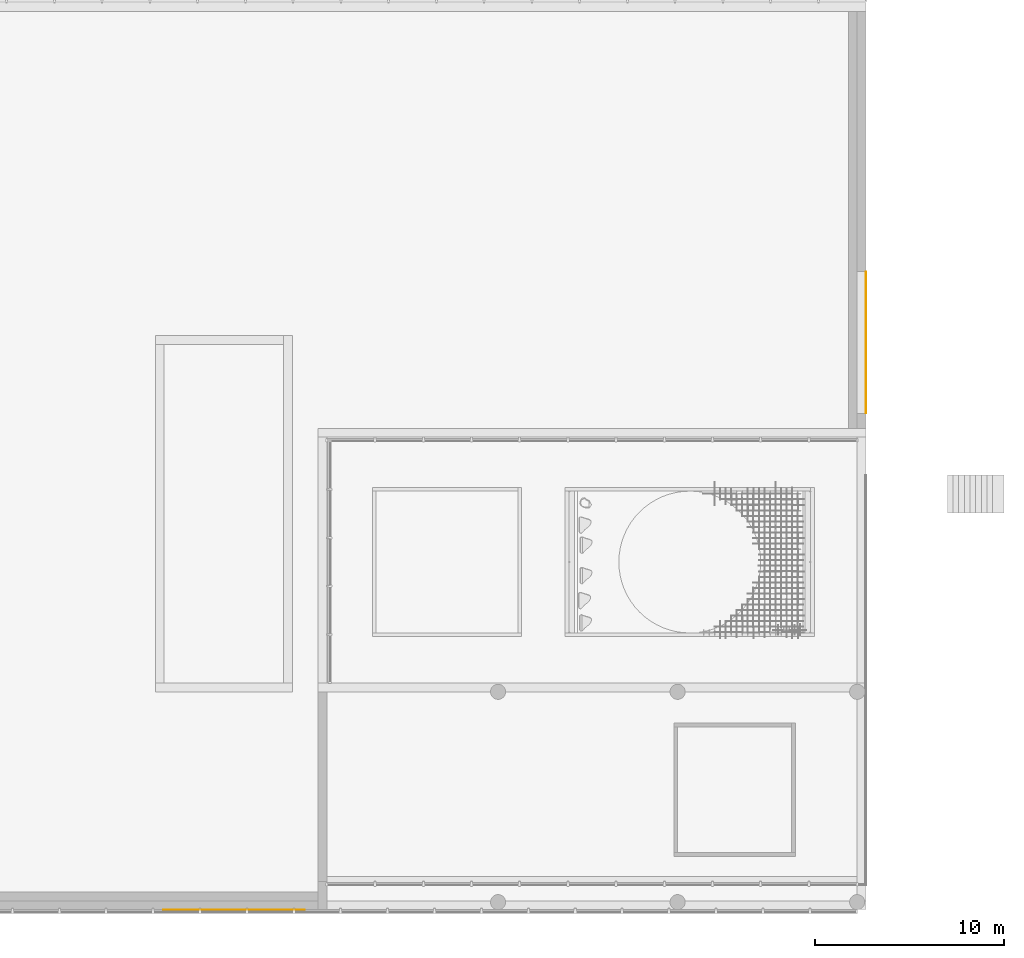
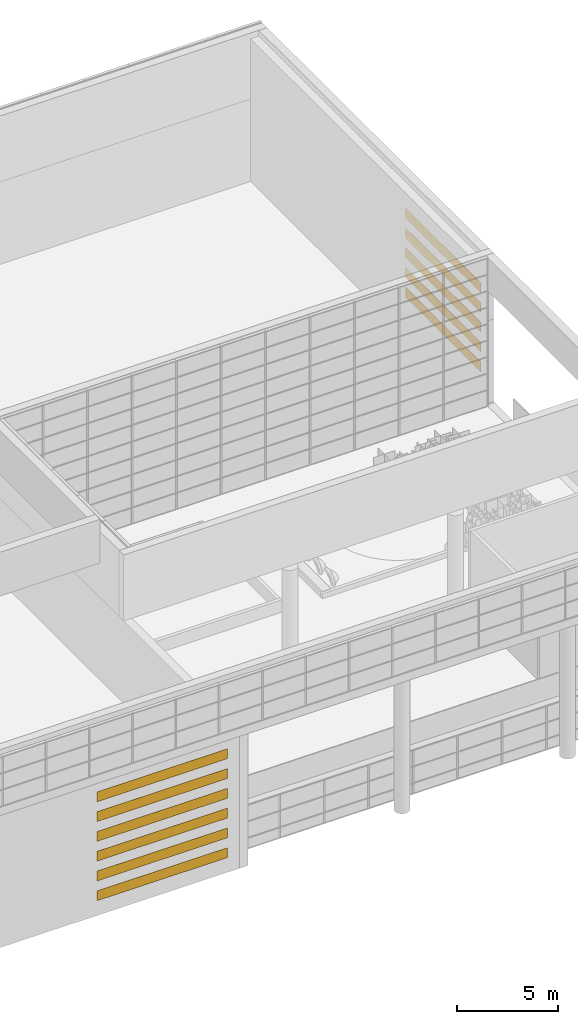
# One storey, part 101 of 105: 11 windows.
"""IFC4 building model written with IfcOpenShell, lengths in millimetres."""

from ifc_helpers import new_model, entity, si_unit, converted_unit, derived_unit, direction, frame, origin_with_axes, place, context, subcontext, project, spatial, triangles, material, element, save


model = new_model("IFC4")

# Units and contexts
model_context = context("Model", 3, precision=1e-05, world=origin_with_axes(), true_north=direction((0.0, 1.0)))
body_context = subcontext(model_context, "Body", "Model", "MODEL_VIEW")
ifc_project = project(units=[si_unit("LENGTHUNIT", "METRE", prefix="MILLI"), si_unit("AREAUNIT", "SQUARE_METRE"), si_unit("VOLUMEUNIT", "CUBIC_METRE"), converted_unit("PLANEANGLEUNIT", "DEGREE", entity("IfcLengthMeasure", 0.017453), si_unit("PLANEANGLEUNIT", "RADIAN"), dimensions=[0, 0, 0, 0, 0, 0, 0]), si_unit("SOLIDANGLEUNIT", "STERADIAN"), si_unit("MASSUNIT", "GRAM"), si_unit("TIMEUNIT", "SECOND"), si_unit("THERMODYNAMICTEMPERATUREUNIT", "DEGREE_CELSIUS"), si_unit("LUMINOUSINTENSITYUNIT", "LUMEN"), si_unit("POWERUNIT", "WATT"), derived_unit("THERMALTRANSMITTANCEUNIT", [(si_unit("POWERUNIT", "WATT"), 1), (si_unit("THERMODYNAMICTEMPERATUREUNIT", "KELVIN"), -1), (si_unit("AREAUNIT", "SQUARE_METRE"), -1)])], contexts=[model_context])

# Site, building, storey
site_placement = place(None, origin_with_axes())
site = spatial("IfcSite", under=ifc_project, at=site_placement, Name="Default Site", CompositionType="ELEMENT")
building_placement = place(site_placement, origin_with_axes())
building = spatial("IfcBuilding", under=site, at=building_placement, Name="Default Building", CompositionType="ELEMENT")
storey_placement = place(building_placement, origin_with_axes())
storey = spatial("IfcBuildingStorey", under=building, at=storey_placement, Name="OG - Story", CompositionType="ELEMENT", Elevation=0.0)

# Windows
ifc_material = material(Name="Default")
for number, where, z_axis, x_axis, name in (
    (1, (79751.391327, -26331.833687, 6425.480507), (0.0, 0.0, 1.0), (0.0, 1.0, 0.0), "Fenster-002"),
    (2, (79751.391327, -26331.833687, 5225.480507), (0.0, 0.0, 1.0), (0.0, 1.0, 0.0), "Fenster-002"),
    (3, (79751.391327, -26331.833687, 4025.480507), (0.0, 0.0, 1.0), (0.0, 1.0, 0.0), "Fenster-002"),
    (4, (79751.391327, -26331.833687, 7625.480507), (0.0, 0.0, 1.0), (0.0, 1.0, 0.0), "Fenster-002"),
    (5, (79751.391327, -26331.833687, 8825.480507), (0.0, 0.0, 1.0), (0.0, 1.0, 0.0), "Fenster-002"),
):
    element("IfcWindow", number, at=place(storey_placement, frame(where, z_axis=z_axis, x_axis=x_axis)), inside=storey, material=ifc_material, Name=name, OverallHeight=600.0, OverallWidth=7500.0, PredefinedType="WINDOW", context=body_context, shape_type="Tessellation", body=[
        triangles([(0.0, 10.0, 0.0), (7500.0, 10.0, 0.0), (7500.0, 0.0, 0.0), (0.0, 0.0, 0.0), (0.0, 10.0, 600.0), (7500.0, 10.0, 600.0), (7500.0, 0.0, 600.0), (0.0, 0.0, 600.0)], [[1, 2, 3], [1, 3, 4], [1, 5, 6], [1, 6, 2], [2, 6, 7], [2, 7, 3], [4, 3, 7], [4, 7, 8], [5, 1, 4], [5, 4, 8], [6, 5, 8], [6, 8, 7]], closed=False),
    ])
for number, where, z_axis, x_axis, name in (
    (6, (42561.154968, -52589.262838, 893.653003), (0.0, 0.0, 1.0), (1.0, 0.0, 0.0), "Fenster-001"),
    (7, (42561.154968, -52589.262838, 2093.653003), (0.0, 0.0, 1.0), (1.0, 0.0, 0.0), "Fenster-001"),
    (8, (42561.154968, -52589.262838, 3293.653003), (0.0, 0.0, 1.0), (1.0, 0.0, 0.0), "Fenster-001"),
    (9, (42561.154968, -52589.262838, 4493.653003), (0.0, 0.0, 1.0), (1.0, 0.0, 0.0), "Fenster-001"),
    (10, (42561.154968, -52589.262838, 5693.653003), (0.0, 0.0, 1.0), (1.0, 0.0, 0.0), "Fenster-001"),
    (11, (42561.154968, -52589.262838, 6893.653003), (0.0, 0.0, 1.0), (1.0, 0.0, 0.0), "Fenster-001"),
):
    element("IfcWindow", number, at=place(storey_placement, frame(where, z_axis=z_axis, x_axis=x_axis)), inside=storey, material=ifc_material, Name=name, OverallHeight=600.0, OverallWidth=7500.0, PredefinedType="WINDOW", context=body_context, shape_type="Tessellation", body=[
        triangles([(7500.0, 10.0, 0.0), (7500.0, 0.0, 0.0), (0.0, 0.0, 0.0), (0.0, 10.0, 0.0), (7500.0, 10.0, 600.0), (7500.0, 0.0, 600.0), (0.0, 0.0, 600.0), (0.0, 10.0, 600.0)], [[1, 2, 3], [1, 3, 4], [5, 6, 2], [5, 2, 1], [2, 6, 7], [2, 7, 3], [4, 3, 7], [4, 7, 8], [1, 4, 8], [1, 8, 5], [8, 7, 6], [8, 6, 5]], closed=False),
    ])

save(model, "model.ifc")
